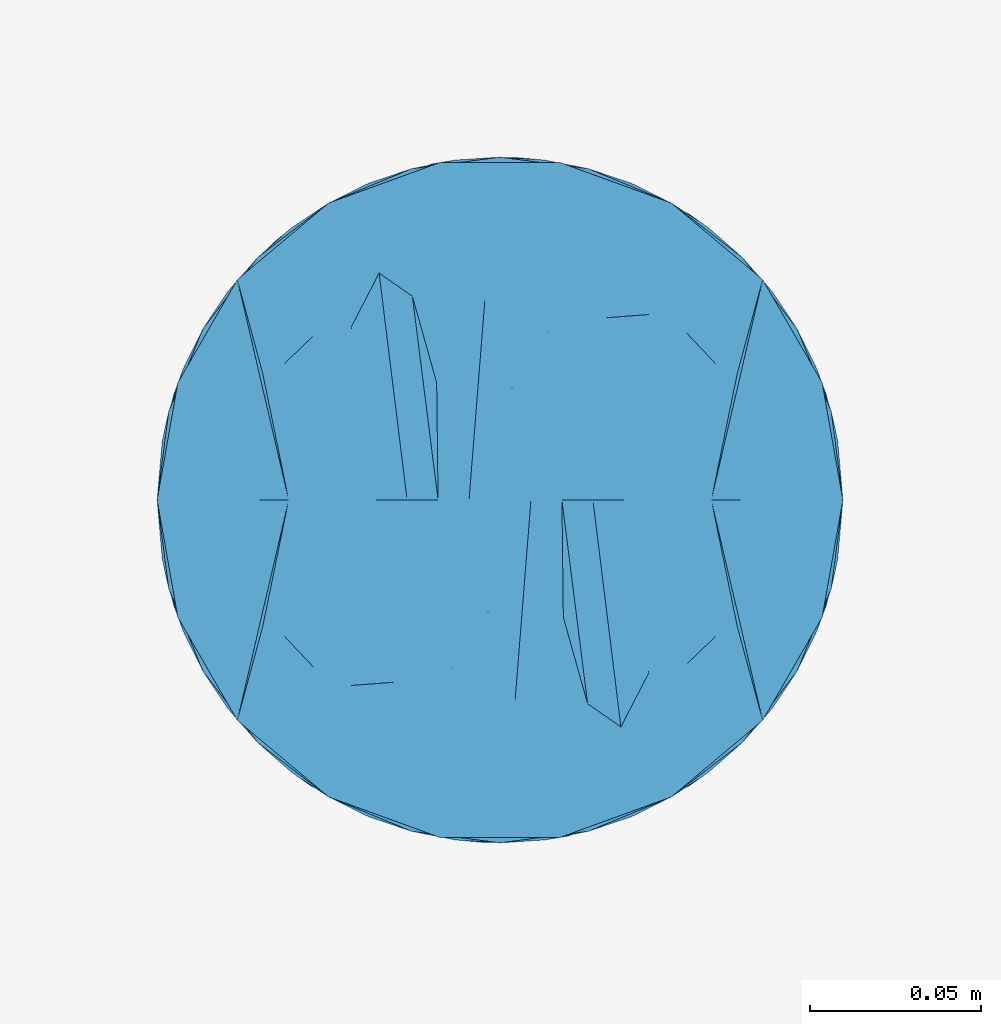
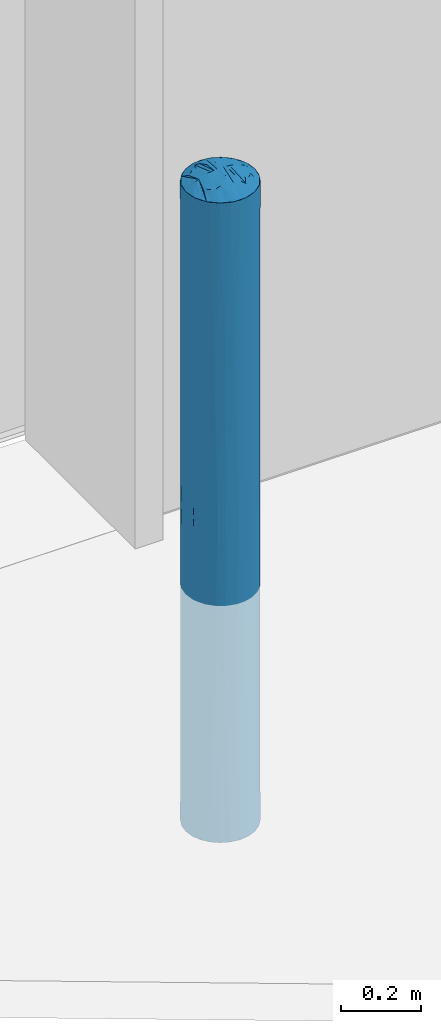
# One storey, part 45 of 77: 1 discrete accessory.
"""IFC2X3 building model written with IfcOpenShell, lengths in millimetres."""

from ifc_helpers import new_model, entity, si_unit, converted_unit, derived_unit, direction, frame, origin, place, context, subcontext, project, spatial, faceted_brep, source, transform, mapped, material, type_object, type_shapes, element, save


model = new_model("IFC2X3")

# Units and contexts
model_context = context("Model", 3, precision=0.01, world=origin(), true_north=direction((6.12303176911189e-17, 1.0)))
body_context = subcontext(model_context, "Body", "Model", "MODEL_VIEW")
ifc_project = project(units=[si_unit("LENGTHUNIT", "METRE", prefix="MILLI"), si_unit("AREAUNIT", "SQUARE_METRE"), si_unit("VOLUMEUNIT", "CUBIC_METRE"), converted_unit("PLANEANGLEUNIT", "DEGREE", entity("IfcRatioMeasure", 0.0174532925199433), si_unit("PLANEANGLEUNIT", "RADIAN"), dimensions=[0, 0, 0, 0, 0, 0, 0]), si_unit("MASSUNIT", "GRAM", prefix="KILO"), derived_unit("MASSDENSITYUNIT", [(si_unit("MASSUNIT", "GRAM", prefix="KILO"), 1), (si_unit("LENGTHUNIT", "METRE"), -3)]), si_unit("TIMEUNIT", "SECOND"), si_unit("FREQUENCYUNIT", "HERTZ"), si_unit("THERMODYNAMICTEMPERATUREUNIT", "DEGREE_CELSIUS"), derived_unit("THERMALTRANSMITTANCEUNIT", [(si_unit("MASSUNIT", "GRAM", prefix="KILO"), 1), (si_unit("THERMODYNAMICTEMPERATUREUNIT", "KELVIN"), -1), (si_unit("TIMEUNIT", "SECOND"), -3)]), derived_unit("VOLUMETRICFLOWRATEUNIT", [(si_unit("LENGTHUNIT", "METRE"), 3), (si_unit("TIMEUNIT", "SECOND"), -1)]), si_unit("ELECTRICCURRENTUNIT", "AMPERE"), si_unit("ELECTRICVOLTAGEUNIT", "VOLT"), si_unit("POWERUNIT", "WATT"), si_unit("FORCEUNIT", "NEWTON", prefix="KILO"), si_unit("ILLUMINANCEUNIT", "LUX"), si_unit("LUMINOUSFLUXUNIT", "LUMEN"), si_unit("LUMINOUSINTENSITYUNIT", "CANDELA"), derived_unit("USERDEFINED", [(si_unit("MASSUNIT", "GRAM", prefix="KILO"), -1), (si_unit("LENGTHUNIT", "METRE"), -2), (si_unit("TIMEUNIT", "SECOND"), 3), (si_unit("LUMINOUSFLUXUNIT", "LUMEN"), 1)]), derived_unit("LINEARVELOCITYUNIT", [(si_unit("LENGTHUNIT", "METRE"), 1), (si_unit("TIMEUNIT", "SECOND"), -1)]), si_unit("PRESSUREUNIT", "PASCAL"), derived_unit("USERDEFINED", [(si_unit("LENGTHUNIT", "METRE"), -2), (si_unit("MASSUNIT", "GRAM", prefix="KILO"), 1), (si_unit("TIMEUNIT", "SECOND"), -2)])], contexts=[model_context])

# Site, building, storey
site_placement = place(None, origin())
site = spatial("IfcSite", under=ifc_project, at=site_placement, Name="Default", CompositionType="ELEMENT")
building_placement = place(site_placement, origin())
building = spatial("IfcBuilding", under=site, at=building_placement, CompositionType="ELEMENT")
storey_placement = place(building_placement, origin())
storey = spatial("IfcBuildingStorey", under=building, at=storey_placement, Name="1. KORRUS", CompositionType="ELEMENT", Elevation=0.0)

# Discrete accessory
ifc_material = material(Name="Default New Material-must-varv")
discrete_accessory_type = type_object("IfcDiscreteAccessoryType", Name="ukse-pollar", material=ifc_material)
shared_shape = source(origin(), body_context, "Body", "Brep", [
    faceted_brep([(93.969262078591, -34.2020143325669, 1200.0), (95.8287421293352, -23.6563789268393, 1200.0), (97.6882221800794, -13.1107435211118, 1200.0), (100.0, 0.0, 1200.0), (91.8749158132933, 0.0, 1205.6559032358), (83.7498316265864, 0.0, 1211.3118064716), (76.9390417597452, 0.0, 1216.05282423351), (69.2436158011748, -37.0764107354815, 1215.9880775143), (62.8416939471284, -39.8030161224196, 1218.4526620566), (63.3022221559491, -75.4406506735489, 1200.0), (-91.8749158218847, 0.0, 1205.65590322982), (-100.0, 0.0, 1200.0), (-97.6882221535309, -13.110743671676, 1200.0), (-95.8287421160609, -23.6563790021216, 1200.0), (-93.9692620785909, -34.2020143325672, 1200.0), (-76.9390417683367, 0.0, 1216.05282422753), (-83.7498316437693, 0.0, 1211.31180645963), (76.604444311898, -64.278760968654, 1200.0), (61.6281008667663, 0.0, 1224.0406107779), (85.2868531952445, -49.2403876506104, 1200.0), (4.40844307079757, -58.3778316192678, 1226.30016518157), (9.03191194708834, 0.0, 1237.09268012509), (-3.54862814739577, -32.9400963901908, 1234.4920463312), (44.627798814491, 0.0, 1230.53414834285), (54.6170308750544, -47.6944043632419, 1219.50624940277), (17.3648177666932, -98.4807753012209, 1200.0), (33.6824088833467, -92.5416578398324, 1200.0), (25.5588463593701, -59.4119136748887, 1223.53680168), (50.0, -86.6025403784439, 1200.0), (43.4209832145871, -50.3665618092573, 1222.6504135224), (36.1276477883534, 0.0, 1233.78091712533), (-85.2868531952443, -49.2403876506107, 1200.0), (-70.128251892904, 0.0, 1220.79384199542), (-76.6044443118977, -64.2787609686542, 1200.0), (-61.6281008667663, 0.0, 1224.0406107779), (70.128251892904, 0.0, 1220.79384199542), (-43.3922707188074, -54.0995868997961, 1221.20165944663), (-54.4185160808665, -48.7244133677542, 1219.21017541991), (-50.0, -86.6025403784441, 1200.0), (35.2622305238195, -66.2009236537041, 1218.09661192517), (27.095735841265, 0.0, 1234.88483812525), (-63.3022221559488, -75.4406506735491, 1200.0), (-62.8416940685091, -39.8030246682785, 1218.45265938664), (18.4754636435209, -34.2574490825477, 1233.0588958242), (18.0638238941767, 0.0, 1235.98875912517), (-53.1279498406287, 0.0, 1227.28737956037), (-69.2436179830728, -37.0764202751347, 1215.98807356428), (15.0400910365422, -63.9380091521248, 1223.05106581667), (0.0, -98.4807753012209, 1200.0), (-21.4967364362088, -71.3818883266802, 1218.36002279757), (-31.093916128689, -53.1550996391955, 1224.97270928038), (-33.6824088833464, -92.5416578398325, 1200.0), (-36.1276477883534, 0.0, 1233.78091712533), (-27.095735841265, 0.0, 1234.88483812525), (-13.9644320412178, -48.8776365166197, 1229.32055829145), (53.1279498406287, 0.0, 1227.28737956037), (-44.627798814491, 0.0, 1230.53414834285), (-18.0638238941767, 0.0, 1235.98875912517), (-9.03191194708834, 0.0, 1237.09268012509), (-9.80597558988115, -78.5292492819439, 1215.62108797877), (-17.3648177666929, -98.480775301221, 1200.0), (0.0, 0.0, 1238.19660112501), (-93.9692620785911, 34.2020143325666, 1200.0), (-95.8287421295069, 23.6563789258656, 1200.0), (-97.6882221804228, 13.1107435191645, 1200.0), (50.0, 86.6025403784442, 1200.0), (54.4185175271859, 48.7244091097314, 1219.21017640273), (63.3022221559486, 75.4406506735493, 1200.0), (97.6882221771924, 13.110743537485, 1200.0), (95.8287421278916, 23.6563789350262, 1200.0), (93.9692620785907, 34.2020143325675, 1200.0), (-76.6044443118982, 64.2787609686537, 1200.0), (-69.2436157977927, 37.076410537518, 1215.98807757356), (-85.2868531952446, 49.2403876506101, 1200.0), (-4.40844201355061, 58.377832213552, 1226.30016496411), (3.5486282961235, 32.9400954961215, 1234.4920465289), (-54.6170308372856, 47.6944042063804, 1219.50624947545), (-62.8416938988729, 39.8030161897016, 1218.45266205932), (-17.3648177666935, 98.4807753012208, 1200.0), (-33.6824088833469, 92.5416578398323, 1200.0), (-25.5588462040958, 59.4119134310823, 1223.53680181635), (85.2868531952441, 49.240387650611, 1200.0), (-43.420983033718, 50.3665619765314, 1222.65041351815), (62.8416939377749, 39.803016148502, 1218.45266205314), (43.3922717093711, 54.0995849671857, 1221.20165990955), (-50.0, 86.6025403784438, 1200.0), (-63.3022221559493, 75.4406506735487, 1200.0), (-18.4754634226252, 34.2574489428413, 1233.05889588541), (76.6044443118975, 64.2787609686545, 1200.0), (69.2436157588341, 37.0764105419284, 1215.98807759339), (-35.2622303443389, 66.2009242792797, 1218.09661165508), (-15.0400904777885, 63.938008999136, 1223.05106595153), (0.0, 98.4807753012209, 1200.0), (21.4967358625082, 71.3818881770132, 1218.3600229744), (31.0939160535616, 53.1551002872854, 1224.97270904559), (33.6824088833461, 92.5416578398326, 1200.0), (13.964432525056, 48.8776338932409, 1229.32055915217), (9.80597229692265, 78.5292495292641, 1215.62108807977), (17.3648177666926, 98.480775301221, 1200.0), (0.0, 0.0, 1200.0)], [[[0, 1, 2, 3, 4, 5, 6]], [[7, 8, 9]], [[10, 11, 12, 13, 14, 15, 16]], [[17, 18, 7]], [[0, 6, 19]], [[17, 19, 18]], [[20, 21, 22]], [[23, 24, 8]], [[25, 26, 27]], [[28, 24, 29]], [[29, 24, 30]], [[31, 32, 15]], [[33, 34, 31]], [[35, 19, 6]], [[32, 31, 34]], [[36, 37, 38]], [[39, 29, 40]], [[15, 14, 31]], [[41, 37, 42]], [[21, 43, 44]], [[18, 19, 35]], [[45, 34, 46]], [[38, 37, 41]], [[42, 45, 46]], [[40, 44, 27]], [[43, 20, 47]], [[28, 39, 26]], [[48, 25, 47]], [[49, 50, 51]], [[52, 36, 53]], [[22, 54, 20]], [[29, 30, 40]], [[26, 39, 27]], [[8, 55, 23]], [[9, 24, 28]], [[23, 30, 24]], [[55, 8, 7]], [[9, 8, 24]], [[56, 42, 37]], [[54, 50, 49]], [[50, 53, 36]], [[53, 50, 57]], [[54, 57, 50]], [[38, 51, 36]], [[58, 57, 54]], [[20, 59, 48]], [[52, 37, 36]], [[50, 36, 51]], [[45, 42, 56]], [[37, 52, 56]], [[33, 41, 46]], [[55, 7, 18]], [[17, 7, 9]], [[42, 46, 41]], [[33, 46, 34]], [[27, 43, 47]], [[44, 43, 27]], [[43, 21, 20]], [[47, 25, 27]], [[60, 59, 49]], [[20, 48, 47]], [[27, 39, 40]], [[29, 39, 28]], [[54, 22, 58]], [[61, 58, 22]], [[61, 22, 21]], [[54, 49, 59]], [[60, 49, 51]], [[54, 59, 20]], [[59, 60, 48]], [[62, 63, 64, 11, 10, 16, 15]], [[65, 66, 67]], [[4, 3, 68, 69, 70, 6, 5]], [[71, 34, 72]], [[71, 73, 34]], [[74, 58, 75]], [[56, 76, 77]], [[78, 79, 80]], [[35, 81, 18]], [[82, 76, 52]], [[67, 66, 83]], [[62, 15, 73]], [[70, 81, 6]], [[32, 73, 15]], [[84, 66, 65]], [[85, 76, 82]], [[72, 77, 86]], [[6, 81, 35]], [[58, 87, 57]], [[88, 18, 81]], [[34, 73, 32]], [[55, 18, 89]], [[83, 55, 89]], [[90, 82, 53]], [[53, 57, 80]], [[87, 74, 91]], [[85, 90, 79]], [[92, 78, 91]], [[93, 94, 95]], [[30, 84, 40]], [[75, 96, 74]], [[82, 52, 53]], [[79, 90, 80]], [[77, 45, 56]], [[86, 76, 85]], [[56, 52, 76]], [[45, 77, 72]], [[86, 77, 76]], [[23, 83, 66]], [[96, 94, 93]], [[94, 40, 84]], [[40, 94, 44]], [[96, 44, 94]], [[65, 95, 84]], [[21, 44, 96]], [[74, 97, 92]], [[30, 66, 84]], [[94, 84, 95]], [[55, 83, 23]], [[66, 30, 23]], [[88, 67, 89]], [[45, 72, 34]], [[71, 72, 86]], [[83, 89, 67]], [[88, 89, 18]], [[80, 87, 91]], [[57, 87, 80]], [[87, 58, 74]], [[91, 78, 80]], [[98, 97, 93]], [[74, 92, 91]], [[80, 90, 53]], [[82, 90, 85]], [[96, 75, 21]], [[61, 21, 75]], [[61, 75, 58]], [[96, 93, 97]], [[98, 93, 95]], [[96, 97, 74]], [[97, 98, 92]], [[99, 33, 31]], [[99, 31, 14]], [[99, 14, 13]], [[99, 41, 33]], [[99, 38, 41]], [[99, 51, 38]], [[99, 60, 51]], [[99, 13, 12]], [[99, 12, 11]], [[99, 11, 64]], [[99, 48, 60]], [[99, 25, 48]], [[99, 26, 25]], [[99, 28, 26]], [[99, 9, 28]], [[99, 17, 9]], [[99, 19, 17]], [[99, 0, 19]], [[99, 1, 0]], [[99, 2, 1]], [[99, 3, 2]], [[99, 64, 63]], [[99, 63, 62]], [[99, 62, 73]], [[99, 73, 71]], [[99, 71, 86]], [[99, 86, 85]], [[99, 85, 79]], [[99, 79, 78]], [[99, 78, 92]], [[99, 68, 3]], [[99, 69, 68]], [[99, 70, 69]], [[99, 81, 70]], [[99, 88, 81]], [[99, 67, 88]], [[99, 65, 67]], [[99, 95, 65]], [[99, 98, 95]], [[99, 92, 98]]]),
    faceted_brep([(70.7106781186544, 70.7106781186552, 1200.0), (50.0, 86.6025403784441, 1200.0), (25.8819045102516, 96.592582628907, 1200.0), (0.0, 100.0, 1200.0), (-25.8819045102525, 96.5925826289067, 1200.0), (-50.0, 86.6025403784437, 1200.0), (-70.710678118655, 70.7106781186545, 1200.0), (-86.6025403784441, 50.0, 1200.0), (-96.5925826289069, 25.8819045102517, 1200.0), (-100.0, 0.0, 1200.0), (-96.5925826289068, -25.8819045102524, 1200.0), (-86.6025403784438, -50.0, 1200.0), (-70.7106781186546, -70.7106781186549, 1200.0), (-50.0, -86.602540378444, 1200.0), (-25.8819045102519, -96.5925826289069, 1200.0), (0.0, -100.0, 1200.0), (25.8819045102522, -96.5925826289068, 1200.0), (50.0, -86.6025403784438, 1200.0), (70.7106781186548, -70.7106781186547, 1200.0), (86.6025403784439, -50.0, 1200.0), (96.5925826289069, -25.8819045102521, 1200.0), (100.0, 0.0, 1200.0), (96.5925826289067, 25.8819045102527, 1200.0), (86.6025403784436, 50.0, 1200.0), (50.0, -86.6025403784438, -750.0), (25.8819045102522, -96.5925826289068, -750.0), (0.0, -100.0, -750.0), (-25.8819045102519, -96.5925826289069, -750.0), (-50.0, -86.602540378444, -750.0), (-70.7106781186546, -70.7106781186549, -750.0), (-86.6025403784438, -50.0, -750.0), (-96.5925826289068, -25.8819045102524, -750.0), (-100.0, 0.0, -750.0), (-96.5925826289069, 25.8819045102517, -750.0), (-86.6025403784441, 50.0, -750.0), (-70.710678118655, 70.7106781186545, -750.0), (-50.0, 86.6025403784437, -750.0), (-25.8819045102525, 96.5925826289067, -750.0), (0.0, 100.0, -750.0), (25.8819045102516, 96.592582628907, -750.0), (50.0, 86.6025403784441, -750.0), (70.7106781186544, 70.7106781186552, -750.0), (86.6025403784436, 50.0, -750.0), (96.5925826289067, 25.8819045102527, -750.0), (100.0, 0.0, -750.0), (96.5925826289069, -25.8819045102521, -750.0), (86.6025403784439, -50.0, -750.0), (70.7106781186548, -70.7106781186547, -750.0), (-92.387953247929, 38.2683432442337, -285.980854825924), (-95.1291375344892, 30.8293235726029, 225.0), (-79.3353340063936, 60.8761429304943, 225.0), (-60.8761428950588, 79.3353340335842, -151.214692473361), (-38.2683432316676, 92.3879532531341, -299.59510263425), (60.8761429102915, 79.3353340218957, 601.214692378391), (79.335334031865, 60.8761428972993, 225.0), (55.4391010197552, 83.225633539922, 225.0), (-79.3353340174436, 60.8761429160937, 749.595102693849), (4.65337325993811, 99.8916719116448, 225.0), (13.0526192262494, 99.1444861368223, -269.40187286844), (-13.0526192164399, 99.1444861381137, -151.214692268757), (-38.2683432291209, 92.387953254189, 225.0), (-38.2683432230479, 92.3879532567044, 749.595102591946), (-19.6480455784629, 98.0507741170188, 225.0), (-79.3353340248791, 60.8761429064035, -299.595102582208), (-60.876142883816, 79.3353340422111, 601.214692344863), (60.8761429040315, 79.3353340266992, -151.214692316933), (79.335334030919, 60.8761428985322, -299.595102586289), (-98.5078583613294, 17.2105154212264, -334.254320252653), (-100.0, 0.0, -51.6568483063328), (-100.0, 0.0, 501.662546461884), (-98.507858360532, 17.2105154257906, 784.254320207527), (-92.3879532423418, 38.2683432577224, 735.980854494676), (100.0, 0.0, -51.6591080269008), (95.1291375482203, 30.8293235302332, 225.0), (100.0, 0.0, 501.659108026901), (-55.4391010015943, 83.2256335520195, 225.0), (38.2683432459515, 92.3879532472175, 749.595102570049), (-13.0526192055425, 99.1444861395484, 601.214692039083), (38.2683432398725, 92.3879532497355, -299.595102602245), (92.3879532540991, 38.2683432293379, 735.980854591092), (92.3879532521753, 38.2683432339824, -285.980854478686), (79.335334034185, 60.8761428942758, 749.595102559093), (98.5078583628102, 17.2105154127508, 784.254320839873), (13.0526192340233, 99.1444861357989, 719.401872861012), (98.5078583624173, 17.2105154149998, -334.254320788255), (38.268343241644, 92.3879532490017, 225.0), (98.5078583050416, -17.210515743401, -334.254323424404), (-60.876142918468, -79.3353340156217, -151.214692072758), (-79.3353340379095, -60.8761428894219, -299.595102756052), (79.3353338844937, -60.8761430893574, -299.595101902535), (13.0526191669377, -99.1444861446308, -151.214692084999), (38.2683431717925, -92.3879532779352, -299.595102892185), (38.2683431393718, -92.3879532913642, 225.0), (38.2683431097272, -92.3879533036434, 749.595103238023), (19.6480455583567, -98.0507741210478, 225.0), (-13.0526193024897, -99.1444861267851, 719.401872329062), (60.8761427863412, -79.3353341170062, -151.214692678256), (66.0410934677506, -75.0904386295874, 225.000002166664), (-4.6533732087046, -99.8916719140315, 224.999998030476), (-13.0526192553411, -99.1444861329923, -269.401871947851), (95.1291373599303, -30.829324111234, 225.000013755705), (-95.1291375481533, -30.8293235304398, 225.0), (-98.5078583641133, -17.210515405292, -334.254320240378), (-92.3879532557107, -38.2683432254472, -285.980854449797), (79.3353338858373, -60.8761430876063, 749.595105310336), (79.3353338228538, -60.876143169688, 225.000002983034), (92.3879530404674, -38.2683437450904, -285.980851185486), (-38.2683432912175, -92.3879532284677, 749.595102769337), (92.38795316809, -38.2683434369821, 735.980862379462), (60.8761427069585, -79.3353341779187, 601.214694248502), (13.0526190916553, -99.144486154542, 601.214690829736), (-60.8761429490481, -79.3353339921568, 601.214692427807), (-79.3353340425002, -60.8761428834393, 225.0), (-55.4391010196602, -83.2256335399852, 225.0), (-38.2683432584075, -92.387953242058, -299.595102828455), (-92.3879532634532, -38.268343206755, 735.980854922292), (-79.3353340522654, -60.8761428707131, 749.59510268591), (-98.5078583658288, -17.2105153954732, 784.254320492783), (98.5078583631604, -17.2105154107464, 784.25432452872), (-38.2683432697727, -92.3879532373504, 225.0)], [[[0, 1, 2, 3, 4, 5, 6, 7, 8, 9, 10, 11, 12, 13, 14, 15, 16, 17, 18, 19, 20, 21, 22, 23]], [[24, 25, 26, 27, 28, 29, 30, 31, 32, 33, 34, 35, 36, 37, 38, 39, 40, 41, 42, 43, 44, 45, 46, 47]], [[48, 49, 50]], [[36, 51, 52]], [[53, 54, 55]], [[7, 6, 56]], [[52, 37, 36]], [[57, 58, 59]], [[60, 61, 62, 52]], [[50, 51, 63]], [[50, 56, 64]], [[41, 65, 66]], [[52, 62, 59]], [[48, 34, 33]], [[32, 67, 33]], [[49, 68, 69]], [[63, 35, 34]], [[41, 40, 65]], [[70, 71, 49]], [[72, 73, 74]], [[38, 37, 59]], [[64, 61, 75]], [[76, 2, 1]], [[5, 64, 6]], [[61, 5, 4]], [[4, 77, 61]], [[61, 60, 52, 75]], [[78, 40, 39]], [[39, 38, 58]], [[51, 50, 75]], [[66, 42, 41]], [[79, 73, 54]], [[54, 80, 66]], [[54, 81, 79]], [[22, 82, 79]], [[33, 67, 48]], [[6, 64, 56]], [[21, 82, 22]], [[77, 4, 3]], [[3, 83, 77]], [[42, 80, 43]], [[51, 36, 35]], [[70, 69, 9]], [[68, 67, 32]], [[53, 81, 54]], [[54, 66, 65]], [[84, 72, 44]], [[74, 82, 21]], [[78, 55, 65]], [[1, 0, 53]], [[73, 84, 80]], [[8, 7, 71]], [[81, 0, 23]], [[50, 71, 56]], [[50, 63, 48]], [[59, 58, 38]], [[83, 3, 2]], [[23, 22, 79]], [[1, 53, 76]], [[78, 85, 76, 55]], [[39, 58, 78]], [[57, 83, 85]], [[57, 62, 77]], [[85, 83, 76]], [[85, 78, 58]], [[63, 34, 48]], [[68, 49, 67]], [[8, 71, 70]], [[49, 71, 50]], [[81, 23, 79]], [[74, 73, 82]], [[43, 80, 84]], [[73, 80, 54]], [[37, 52, 59]], [[5, 61, 64]], [[40, 78, 65]], [[2, 76, 83]], [[7, 56, 71]], [[35, 63, 51]], [[42, 66, 80]], [[0, 81, 53]], [[58, 57, 85]], [[57, 77, 83]], [[48, 67, 49]], [[8, 70, 9]], [[69, 70, 49]], [[79, 82, 73]], [[43, 84, 44]], [[72, 84, 73]], [[59, 62, 57]], [[77, 62, 61]], [[64, 75, 50]], [[51, 75, 52]], [[65, 55, 54]], [[53, 55, 76]], [[45, 44, 86]], [[29, 87, 88]], [[89, 47, 46]], [[26, 25, 90]], [[91, 25, 24]], [[92, 93, 94, 91]], [[95, 15, 14]], [[96, 89, 97]], [[98, 99, 90]], [[94, 90, 91]], [[74, 100, 72]], [[101, 102, 103]], [[29, 28, 87]], [[24, 47, 96]], [[104, 19, 18]], [[105, 106, 100]], [[107, 14, 13]], [[108, 20, 19]], [[93, 92, 109]], [[92, 91, 96]], [[93, 17, 16]], [[18, 17, 109]], [[45, 106, 46]], [[16, 110, 93]], [[111, 112, 113]], [[114, 28, 27]], [[89, 105, 104, 97]], [[18, 109, 104]], [[88, 30, 29]], [[115, 101, 112]], [[24, 96, 91]], [[112, 103, 88]], [[112, 116, 115]], [[45, 86, 106]], [[109, 92, 97]], [[9, 117, 10]], [[110, 16, 15]], [[15, 95, 110]], [[116, 12, 11]], [[11, 10, 115]], [[118, 74, 21]], [[111, 116, 112]], [[112, 88, 87]], [[105, 108, 104]], [[114, 113, 87]], [[13, 12, 111]], [[102, 68, 32]], [[69, 117, 9]], [[30, 103, 31]], [[100, 118, 108]], [[10, 117, 115]], [[90, 99, 26]], [[27, 26, 99]], [[68, 101, 69]], [[13, 111, 107]], [[114, 119, 107, 113]], [[27, 99, 114]], [[98, 95, 119]], [[98, 94, 110]], [[119, 95, 107]], [[119, 114, 99]], [[89, 46, 106]], [[72, 100, 86]], [[20, 108, 118]], [[100, 108, 105]], [[116, 11, 115]], [[69, 101, 117]], [[31, 103, 102]], [[101, 103, 112]], [[47, 89, 96]], [[105, 89, 106]], [[19, 104, 108]], [[25, 91, 90]], [[17, 93, 109]], [[28, 114, 87]], [[14, 107, 95]], [[30, 88, 103]], [[12, 116, 111]], [[99, 98, 119]], [[98, 110, 95]], [[106, 86, 100]], [[72, 86, 44]], [[20, 118, 21]], [[74, 118, 100]], [[115, 117, 101]], [[31, 102, 32]], [[68, 102, 101]], [[96, 97, 92]], [[109, 97, 104]], [[90, 94, 98]], [[110, 94, 93]], [[87, 113, 112]], [[111, 113, 107]]]),
])
type_shapes(discrete_accessory_type, [shared_shape])
discrete_accessory_placement = place(storey_placement, frame((24310.0321663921, -750.0, 0.0), z_axis=(0.0, 0.0, 1.0), x_axis=(-1.0, 0.0, 0.0)))
element("IfcDiscreteAccessory", 1, at=discrete_accessory_placement, inside=storey, type_object=discrete_accessory_type, material=ifc_material, Name="ukse-pollar:ukse-pollar", ObjectType="ukse-pollar", context=body_context, shape_type="MappedRepresentation", body=[
    mapped(shared_shape, transform((0.0, 0.0, 0.0), scale=1.0)),
])

save(model, "model.ifc")
